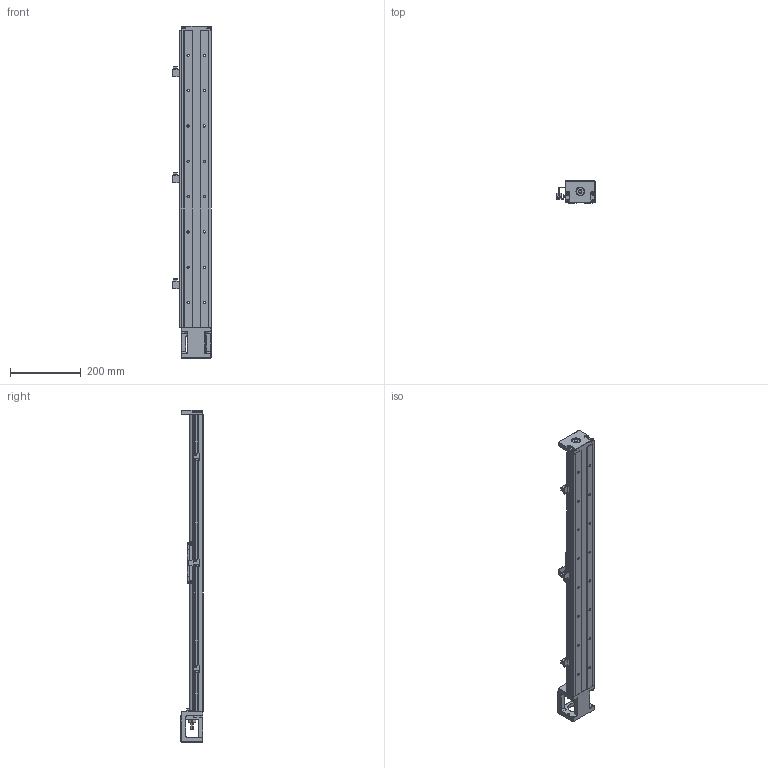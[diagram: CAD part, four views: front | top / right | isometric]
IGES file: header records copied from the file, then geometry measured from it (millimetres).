
Start section: SolidWorks IGES file using analytic representation for surfaces
Bounding box: 109.8 x 64 x 940 mm (x, y, z)
Surface area: 405274 mm2 (no closed solid volume)
Topology: 0 solids, 0 shells, 1436 faces, 17222 edges, 17102 vertices
Faces by surface type: bspline 809, revolution 627
